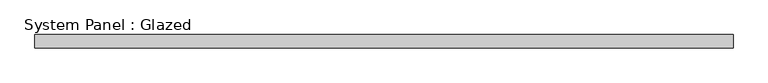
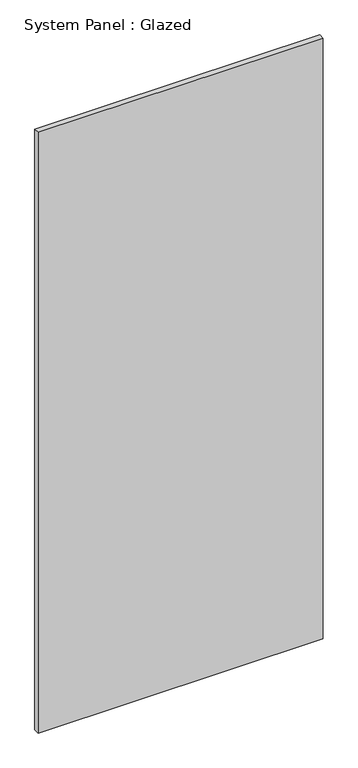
"""IFC4 building model written with IfcOpenShell, lengths in millimetres: plate geometry, System Panel : Glazed."""

from ifc_helpers import new_model, si_unit, origin, origin_with_axes, place, context, project, spatial, polyline, outline, extrude, source, transform, mapped, element, save


def system_panel_glazed_d831f9e5(model_context):
    return source(origin(), model_context, "Body", "SweptSolid", [
        extrude(outline(polyline([(669.9250001, -44.45), (-669.9250001, -44.45), (-669.9250001, -19.05), (669.9250001, -19.05), (669.9250001, -44.45)])), origin_with_axes(), (0.0, 0.0, 1.0), 2984.5),
    ])


if __name__ == "__main__":
    model = new_model("IFC4")
    model_context = context("Model", 3, world=origin())
    ifc_project = project(units=[si_unit("LENGTHUNIT", "METRE", prefix="MILLI")], contexts=[model_context])
    site = spatial("IfcSite", under=ifc_project)
    building = spatial("IfcBuilding", under=site)
    placement = place(None, origin())
    system_panel_glazed_shape = system_panel_glazed_d831f9e5(model_context)
    element("IfcPlate", 1, ObjectType="System Panel : Glazed", at=placement, inside=building, context=model_context, shape_type="MappedRepresentation", body=[
        mapped(system_panel_glazed_shape, transform((0.0, 0.0, 0.0), x_axis=(1.0, 0.0, 0.0), y_axis=(0.0, 1.0, 0.0), z_axis=(0.0, 0.0, 1.0))),
    ])
    save(model, "model.ifc")
